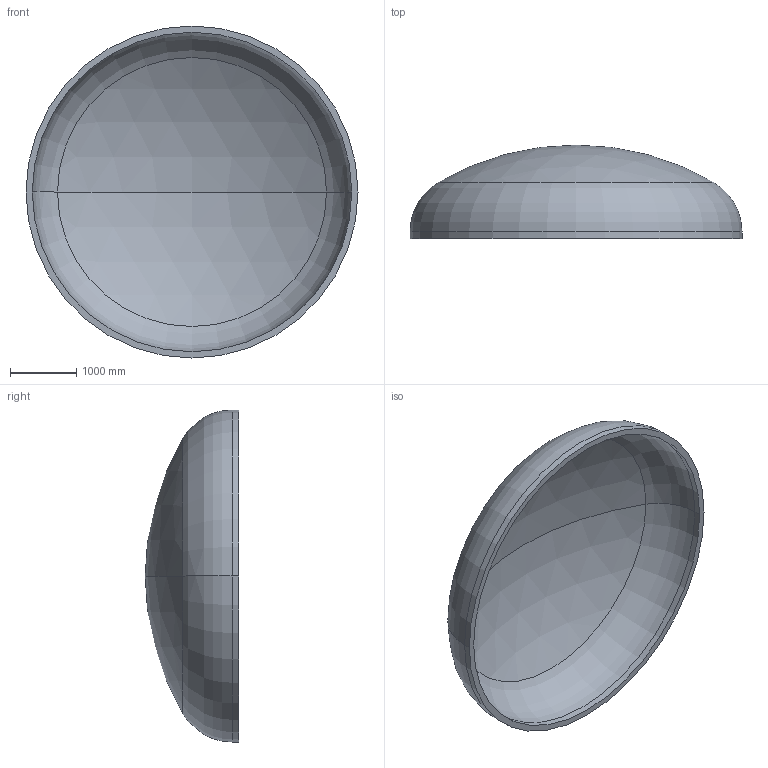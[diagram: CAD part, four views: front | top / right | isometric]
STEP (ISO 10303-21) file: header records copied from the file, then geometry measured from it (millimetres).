
FILE_DESCRIPTION (( 'STEP AP203' ), '1' );
FILE_NAME ('DIN 28013 Korbbogenform_-_Boden DIN 28013 - 5000 x 100 - I - s=94.step', '2016-07-02T00:53:12', ( '' ), ( '' ), 'SwSTEP 2.0', 'SolidWorks 2013', '' );
FILE_SCHEMA (( 'CONFIG_CONTROL_DESIGN' ));
Length unit declared in the file: millimetre
Products named in the file (1): DIN 28013 Korbbogenform_-_Boden DIN 28013 - 5000 x 100 - I - s=94
Bounding box: 5000 x 1408.97 x 5000 mm (x, y, z)
Volume: 2638584840.3 mm3; surface area: 57607378.1 mm2
Topology: 1 solids, 1 shells, 13 faces, 24 edges, 14 vertices
Faces by surface type: torus 4, cylinder 4, sphere 4, plane 1
Entity records: 407 total; most frequent: DIRECTION 72, CARTESIAN_POINT 52, ORIENTED_EDGE 48, AXIS2_PLACEMENT_3D 34, EDGE_CURVE 24, CIRCLE 20, EDGE_LOOP 14, VERTEX_POINT 14
